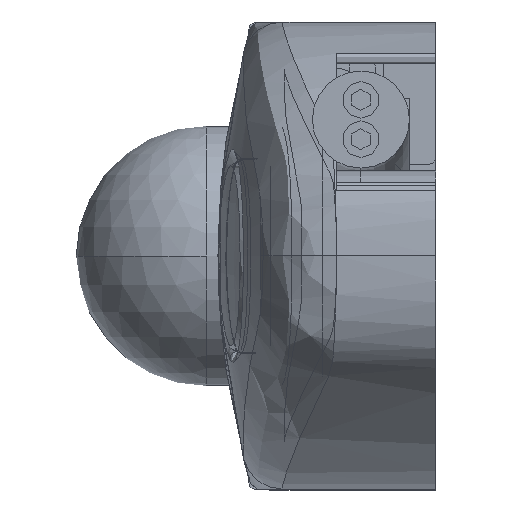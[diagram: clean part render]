
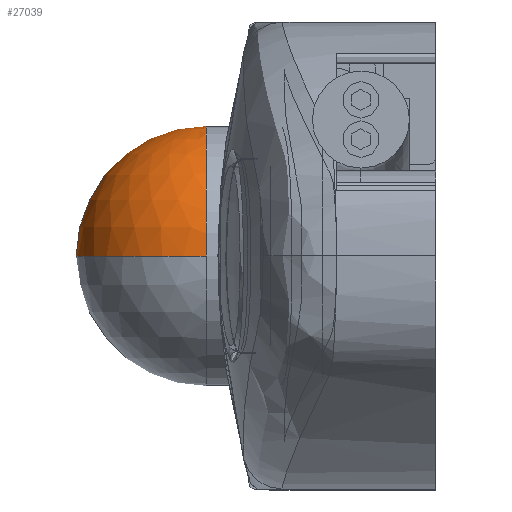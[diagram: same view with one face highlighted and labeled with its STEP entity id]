
A CAD part, left-side view. The second image highlights one B-rep face of the part: STEP entity #27039.
In plain terms, the highlighted spherical face has radius 4.95 mm.
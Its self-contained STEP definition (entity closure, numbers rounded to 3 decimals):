
#77 = CARTESIAN_POINT ( 'NONE',  ( -1.85, 6.75, 0. ) ) ;
#557 = CARTESIAN_POINT ( 'NONE',  ( -1.85, 6.75, 0. ) ) ;
#1294 = EDGE_LOOP ( 'NONE', ( #21712, #22756, #6584, #16641 ) ) ;
#2536 = DIRECTION ( 'NONE',  ( 0., 0., -1. ) ) ;
#2856 = AXIS2_PLACEMENT_3D ( 'NONE', #5446, #27330, #10362 ) ;
#3021 = DIRECTION ( 'NONE',  ( 0., 0., -1. ) ) ;
#3771 = CIRCLE ( 'NONE', #24670, 4.95 ) ;
#4096 = VERTEX_POINT ( 'NONE', #26638 ) ;
#5238 = VERTEX_POINT ( 'NONE', #23479 ) ;
#5446 = CARTESIAN_POINT ( 'NONE',  ( -1.85, 6.75, 0. ) ) ;
#6584 = ORIENTED_EDGE ( 'NONE', *, *, #9888, .F. ) ;
#7961 = CARTESIAN_POINT ( 'NONE',  ( -1.85, 6.75, 0. ) ) ;
#9888 = EDGE_CURVE ( 'NONE', #4096, #5238, #19985, .T. ) ;
#10362 = DIRECTION ( 'NONE',  ( 1., 0., 0. ) ) ;
#10415 = DIRECTION ( 'NONE',  ( 1., 0., 0. ) ) ;
#11861 = CARTESIAN_POINT ( 'NONE',  ( -1.85, 11.7, 0. ) ) ;
#12311 = CARTESIAN_POINT ( 'NONE',  ( -1.85, 6.75, 0. ) ) ;
#12927 = VERTEX_POINT ( 'NONE', #20267 ) ;
#13909 = SPHERICAL_SURFACE ( 'NONE', #2856, 4.95 ) ;
#14767 = DIRECTION ( 'NONE',  ( -1., 0., 0. ) ) ;
#14948 = EDGE_CURVE ( 'NONE', #12927, #4096, #25612, .T. ) ;
#16641 = ORIENTED_EDGE ( 'NONE', *, *, #14948, .F. ) ;
#16767 = AXIS2_PLACEMENT_3D ( 'NONE', #12311, #29398, #14767 ) ;
#17140 = DIRECTION ( 'NONE',  ( 0., -1., 0. ) ) ;
#17200 = EDGE_CURVE ( 'NONE', #24026, #5238, #3771, .T. ) ;
#17613 = DIRECTION ( 'NONE',  ( 0., -1., 0. ) ) ;
#19966 = AXIS2_PLACEMENT_3D ( 'NONE', #77, #17140, #2536 ) ;
#19985 = CIRCLE ( 'NONE', #19966, 4.95 ) ;
#20267 = CARTESIAN_POINT ( 'NONE',  ( 3.1, 6.75, 0. ) ) ;
#21712 = ORIENTED_EDGE ( 'NONE', *, *, #22955, .F. ) ;
#22214 = AXIS2_PLACEMENT_3D ( 'NONE', #557, #17613, #3021 ) ;
#22756 = ORIENTED_EDGE ( 'NONE', *, *, #17200, .T. ) ;
#22955 = EDGE_CURVE ( 'NONE', #24026, #12927, #24635, .T. ) ;
#23479 = CARTESIAN_POINT ( 'NONE',  ( -6.8, 6.75, 0. ) ) ;
#24026 = VERTEX_POINT ( 'NONE', #11861 ) ;
#24635 = CIRCLE ( 'NONE', #16767, 4.95 ) ;
#24670 = AXIS2_PLACEMENT_3D ( 'NONE', #7961, #25037, #10415 ) ;
#25037 = DIRECTION ( 'NONE',  ( 0., 0., 1. ) ) ;
#25612 = CIRCLE ( 'NONE', #22214, 4.95 ) ;
#26638 = CARTESIAN_POINT ( 'NONE',  ( -1.85, 6.75, 4.95 ) ) ;
#26894 = FACE_OUTER_BOUND ( 'NONE', #1294, .T. ) ;
#27039 = ADVANCED_FACE ( 'NONE', ( #26894 ), #13909, .T. ) ;
#27330 = DIRECTION ( 'NONE',  ( 0., 0., 1. ) ) ;
#29398 = DIRECTION ( 'NONE',  ( 0., 0., -1. ) ) ;
